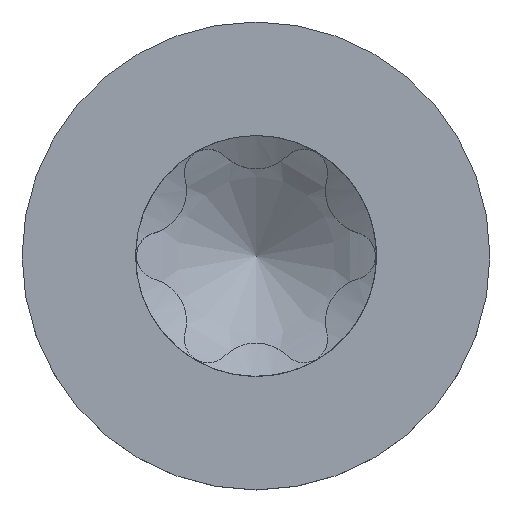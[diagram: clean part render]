
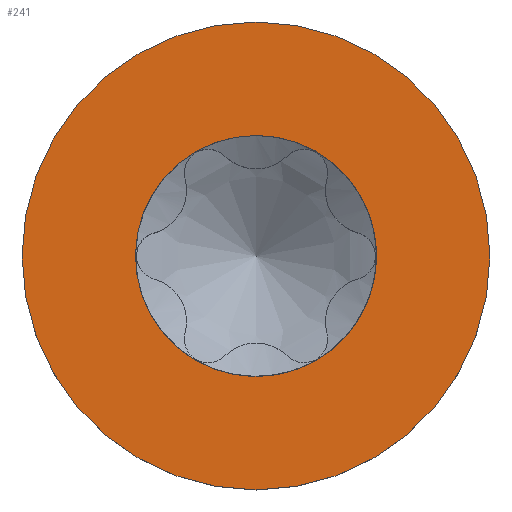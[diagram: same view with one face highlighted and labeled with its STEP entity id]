
A CAD part, top view. The second image highlights one B-rep face of the part: STEP entity #241.
In plain terms, the highlighted planar face has unit normal (0, 0, 1).
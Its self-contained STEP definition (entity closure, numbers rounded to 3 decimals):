
#207=PLANE('',#1235);
#218=FACE_BOUND('',#404,.T.);
#219=FACE_BOUND('',#405,.T.);
#241=ADVANCED_FACE('',(#218,#219),#207,.T.);
#404=EDGE_LOOP('',(#546));
#405=EDGE_LOOP('',(#547));
#484=CIRCLE('',#1232,2.35);
#485=CIRCLE('',#1234,1.21);
#546=ORIENTED_EDGE('',*,*,#994,.T.);
#547=ORIENTED_EDGE('',*,*,#993,.F.);
#881=VERTEX_POINT('',#3356);
#882=VERTEX_POINT('',#3359);
#993=EDGE_CURVE('',#881,#881,#484,.T.);
#994=EDGE_CURVE('',#882,#882,#485,.T.);
#1232=AXIS2_PLACEMENT_3D('',#3355,#1285,#1286);
#1234=AXIS2_PLACEMENT_3D('',#3358,#1289,#1290);
#1235=AXIS2_PLACEMENT_3D('',#3360,#1291,#1292);
#1285=DIRECTION('',(0.,0.,-1.));
#1286=DIRECTION('',(0.,1.,0.));
#1289=DIRECTION('',(0.,0.,-1.));
#1290=DIRECTION('',(0.,-1.,0.));
#1291=DIRECTION('',(0.,0.,1.));
#1292=DIRECTION('',(0.,-1.,0.));
#3355=CARTESIAN_POINT('',(0.,0.,2.));
#3356=CARTESIAN_POINT('',(0.,2.35,2.));
#3358=CARTESIAN_POINT('',(0.,0.,2.));
#3359=CARTESIAN_POINT('',(0.,-1.21,2.));
#3360=CARTESIAN_POINT('',(0.,2.35,2.));
